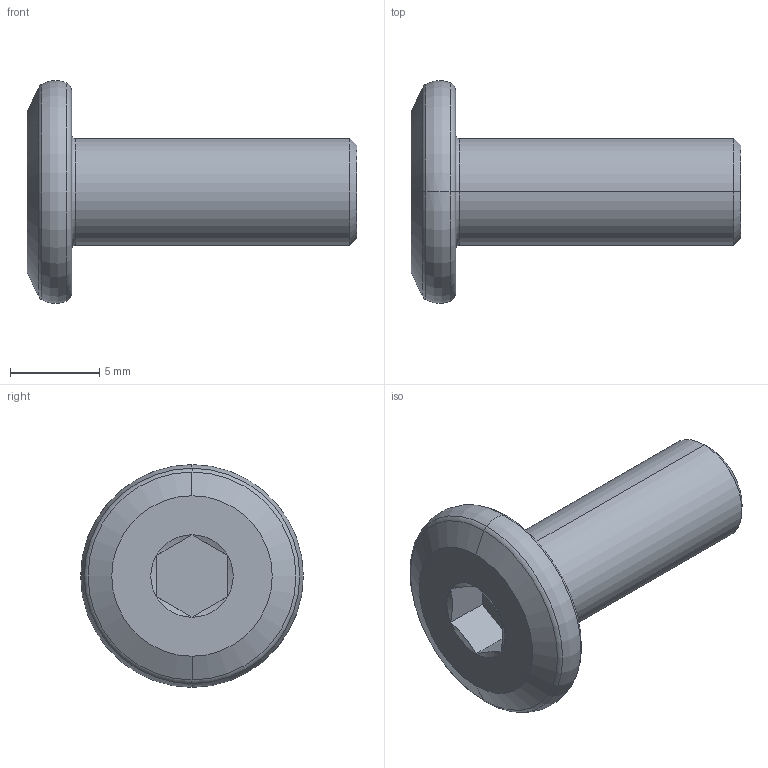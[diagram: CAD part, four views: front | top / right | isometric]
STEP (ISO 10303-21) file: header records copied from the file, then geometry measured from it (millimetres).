
FILE_DESCRIPTION (( 'STEP AP203' ), '1' );
FILE_NAME ('LGD-304D-M6x16.STEP', '2026-08-13T07:51:24', ( '' ), ( '' ), 'SwSTEP 2.0', 'SolidWorks 2020', '' );
FILE_SCHEMA (( 'CONFIG_CONTROL_DESIGN' ));
Length unit declared in the file: millimetre
Products named in the file (1): LGD-304D-M6x16
Bounding box: 18.5 x 12.49 x 12.49 mm (x, y, z)
Volume: 690.4 mm3; surface area: 629.1 mm2
Topology: 1 solids, 1 shells, 30 faces, 56 edges, 30 vertices
Faces by surface type: cone 10, plane 10, torus 8, cylinder 2
Entity records: 835 total; most frequent: CARTESIAN_POINT 151, DIRECTION 144, ORIENTED_EDGE 112, AXIS2_PLACEMENT_3D 63, EDGE_CURVE 56, EDGE_LOOP 32, CIRCLE 32, FACE_OUTER_BOUND 30
